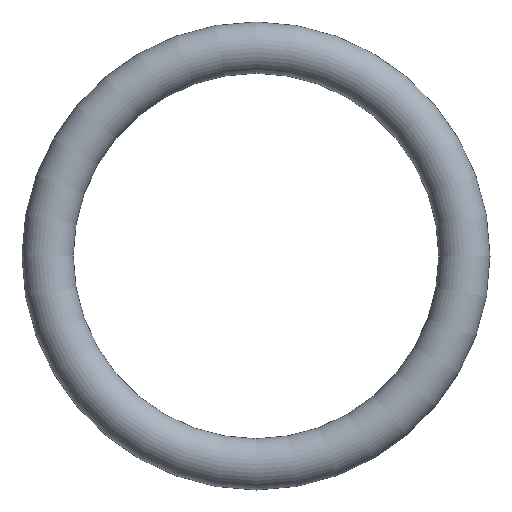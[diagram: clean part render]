
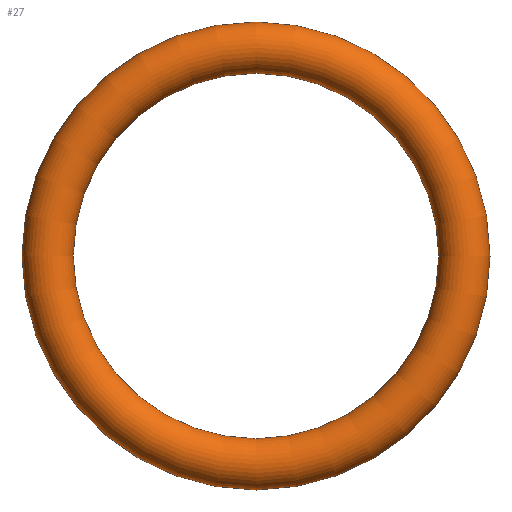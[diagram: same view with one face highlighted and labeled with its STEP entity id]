
A CAD part, front view. The second image highlights one B-rep face of the part: STEP entity #27.
In plain terms, the highlighted toroidal (fillet/blend) face has major radius 7.747 mm and minor radius 0.953 mm.
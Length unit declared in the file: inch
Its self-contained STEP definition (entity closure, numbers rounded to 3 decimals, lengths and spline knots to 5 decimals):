
#15=FACE_OUTER_BOUND('',#16,.T.);
#16=EDGE_LOOP('',(#22,#23,#24,#25));
#17=CIRCLE('',#43,0.0375);
#18=CIRCLE('',#44,0.2675);
#19=VERTEX_POINT('',#55);
#20=EDGE_CURVE('',#19,#19,#17,.T.);
#21=EDGE_CURVE('',#19,#19,#18,.T.);
#22=ORIENTED_EDGE('',*,*,#20,.F.);
#23=ORIENTED_EDGE('',*,*,#21,.T.);
#24=ORIENTED_EDGE('',*,*,#20,.T.);
#25=ORIENTED_EDGE('',*,*,#21,.F.);
#26=TOROIDAL_SURFACE('',#42,0.305,0.0375);
#27=ADVANCED_FACE('',(#15),#26,.T.);
#42=AXIS2_PLACEMENT_3D('',#54,#47,#48);
#43=AXIS2_PLACEMENT_3D('',#56,#49,#50);
#44=AXIS2_PLACEMENT_3D('',#57,#51,#52);
#47=DIRECTION('center_axis',(0.,-1.,0.));
#48=DIRECTION('ref_axis',(0.,0.,-1.));
#49=DIRECTION('center_axis',(-1.,0.,0.));
#50=DIRECTION('ref_axis',(0.,0.,1.));
#51=DIRECTION('center_axis',(0.,1.,0.));
#52=DIRECTION('ref_axis',(0.,0.,-1.));
#54=CARTESIAN_POINT('Origin',(0.,0.,0.));
#55=CARTESIAN_POINT('',(0.,0.,0.2675));
#56=CARTESIAN_POINT('Origin',(0.,0.,0.305));
#57=CARTESIAN_POINT('Origin',(0.,0.,0.));
